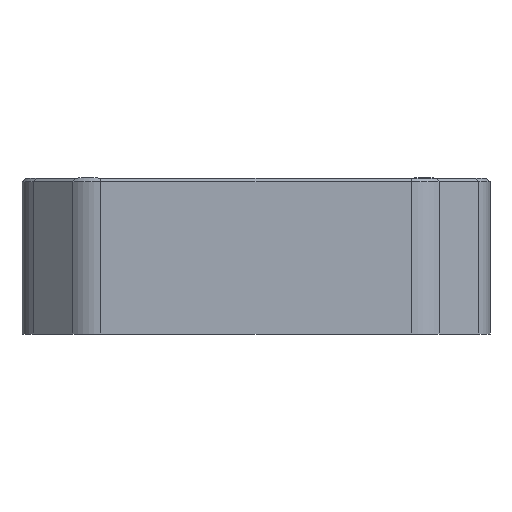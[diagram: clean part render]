
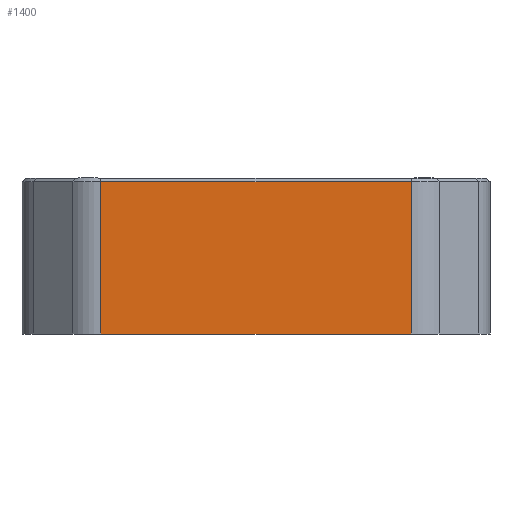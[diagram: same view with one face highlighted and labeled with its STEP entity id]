
A CAD part, front view. The second image highlights one B-rep face of the part: STEP entity #1400.
In plain terms, the highlighted planar face has unit normal (0, -1, 0).
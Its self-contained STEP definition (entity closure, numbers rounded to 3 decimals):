
#112=CARTESIAN_POINT('Vertex',(19.929,-62.5,0.)) ;
#115=CARTESIAN_POINT('Line Origine',(0.,-62.5,0.)) ;
#119=CARTESIAN_POINT('Vertex',(-19.929,-62.5,0.)) ;
#1358=CARTESIAN_POINT('Line Origine',(-19.929,-62.5,10.)) ;
#1362=CARTESIAN_POINT('Vertex',(-19.929,-62.5,19.5)) ;
#1377=CARTESIAN_POINT('Axis2P3D Location',(30.,-62.5,0.)) ;
#1382=CARTESIAN_POINT('Line Origine',(0.,-62.5,19.5)) ;
#1386=CARTESIAN_POINT('Vertex',(19.929,-62.5,19.5)) ;
#1389=CARTESIAN_POINT('Line Origine',(19.929,-62.5,9.75)) ;
#117=VECTOR('Line Direction',#116,1.) ;
#1360=VECTOR('Line Direction',#1359,1.) ;
#1384=VECTOR('Line Direction',#1383,1.) ;
#1391=VECTOR('Line Direction',#1390,1.) ;
#116=DIRECTION('Vector Direction',(-1.,0.,0.)) ;
#1359=DIRECTION('Vector Direction',(0.,0.,1.)) ;
#1378=DIRECTION('Axis2P3D Direction',(0.,1.,-0.)) ;
#1379=DIRECTION('Axis2P3D XDirection',(-1.,0.,0.)) ;
#1383=DIRECTION('Vector Direction',(-1.,0.,0.)) ;
#1390=DIRECTION('Vector Direction',(0.,0.,1.)) ;
#1380=AXIS2_PLACEMENT_3D('Plane Axis2P3D',#1377,#1378,#1379) ;
#118=LINE('Line',#115,#117) ;
#1361=LINE('Line',#1358,#1360) ;
#1385=LINE('Line',#1382,#1384) ;
#1392=LINE('Line',#1389,#1391) ;
#1381=PLANE('',#1380) ;
#121=EDGE_CURVE('',#120,#113,#118,.F.) ;
#1364=EDGE_CURVE('',#120,#1363,#1361,.T.) ;
#1388=EDGE_CURVE('',#1387,#1363,#1385,.T.) ;
#1393=EDGE_CURVE('',#113,#1387,#1392,.T.) ;
#1395=ORIENTED_EDGE('',*,*,#1388,.T.) ;
#1396=ORIENTED_EDGE('',*,*,#1364,.F.) ;
#1397=ORIENTED_EDGE('',*,*,#121,.T.) ;
#1398=ORIENTED_EDGE('',*,*,#1393,.T.) ;
#1394=EDGE_LOOP('',(#1395,#1396,#1397,#1398)) ;
#113=VERTEX_POINT('',#112) ;
#120=VERTEX_POINT('',#119) ;
#1363=VERTEX_POINT('',#1362) ;
#1387=VERTEX_POINT('',#1386) ;
#1400=ADVANCED_FACE('PartBody',(#1399),#1381,.F.) ;
#1399=FACE_OUTER_BOUND('',#1394,.T.) ;
